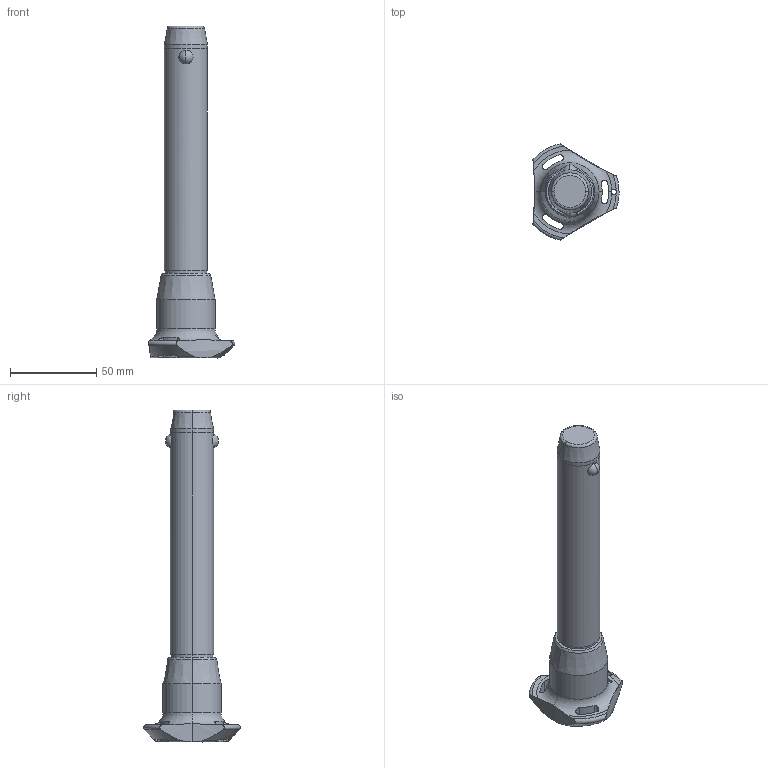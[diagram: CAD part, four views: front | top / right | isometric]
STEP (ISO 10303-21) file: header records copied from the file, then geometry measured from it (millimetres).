
FILE_DESCRIPTION (( 'STEP AP203' ), '1' );
FILE_NAME ('QR1716.M25-120-T.step', '2025-11-13T10:47:14', ( '' ), ( '' ), 'SwSTEP 2.0', 'SolidWorks 2019', '' );
FILE_SCHEMA (( 'CONFIG_CONTROL_DESIGN' ));
Length unit declared in the file: millimetre
Products named in the file (1): QR1716.M25-120-T
Bounding box: 50.05 x 56.02 x 192.7 mm (x, y, z)
Volume: 117316.2 mm3; surface area: 20886.9 mm2
Topology: 1 solids, 1 shells, 68 faces, 182 edges, 115 vertices
Faces by surface type: cylinder 32, cone 14, torus 11, sphere 6, plane 5
Entity records: 2936 total; most frequent: CARTESIAN_POINT 1190, ORIENTED_EDGE 364, DIRECTION 345, EDGE_CURVE 182, AXIS2_PLACEMENT_3D 154, VERTEX_POINT 115, CIRCLE 85, EDGE_LOOP 75
